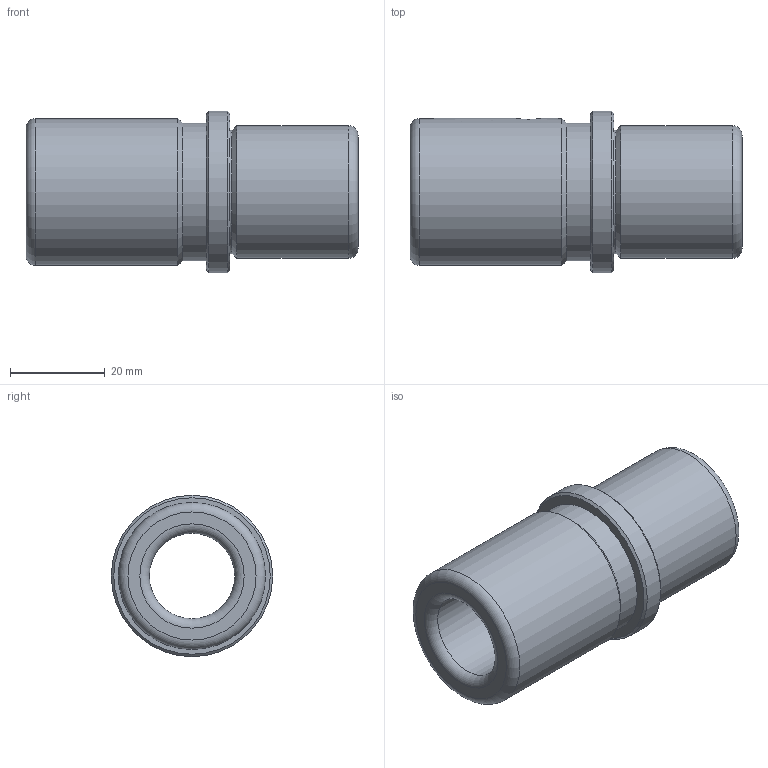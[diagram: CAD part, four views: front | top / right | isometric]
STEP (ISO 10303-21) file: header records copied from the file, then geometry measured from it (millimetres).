
FILE_DESCRIPTION( ( 'STEP AP214' ), '1' );
FILE_NAME( 'p:/temp/worker_889/temp/exporttempdir_4552_557_3ESH9/format_1/WZ - 4051 18 x 70.stp', '2020-12-03T19:50:23', ( 'License CC BY-ND 4.0' ), ( 'CADENAS' ), ' ', 'PARTsolutions', ' ' );
FILE_SCHEMA( ( 'AUTOMOTIVE_DESIGN { 1 0 10303 214 1 1 1 1 }' ) );
Length unit declared in the file: millimetre
Products named in the file (1): _WZ - 4051 18 x 70
Bounding box: 70 x 34 x 34 mm (x, y, z)
Volume: 30861.3 mm3; surface area: 11952.5 mm2
Topology: 1 solids, 1 shells, 21 faces, 38 edges, 22 vertices
Faces by surface type: cylinder 7, cone 5, plane 5, torus 4
Full cylindrical faces by diameter (mm): 4.917 x1, 18 x1, 26 x1, 28 x1, 29 x1, 31 x1, 34 x1
Entity records: 736 total; most frequent: CARTESIAN_POINT 182, DIRECTION 84, EDGE_LOOP 44, ORIENTED_EDGE 44, AXIS2_PLACEMENT_3D 42, FACE_OUTER_BOUND 32, EDGE_CURVE 22, VERTEX_POINT 22
